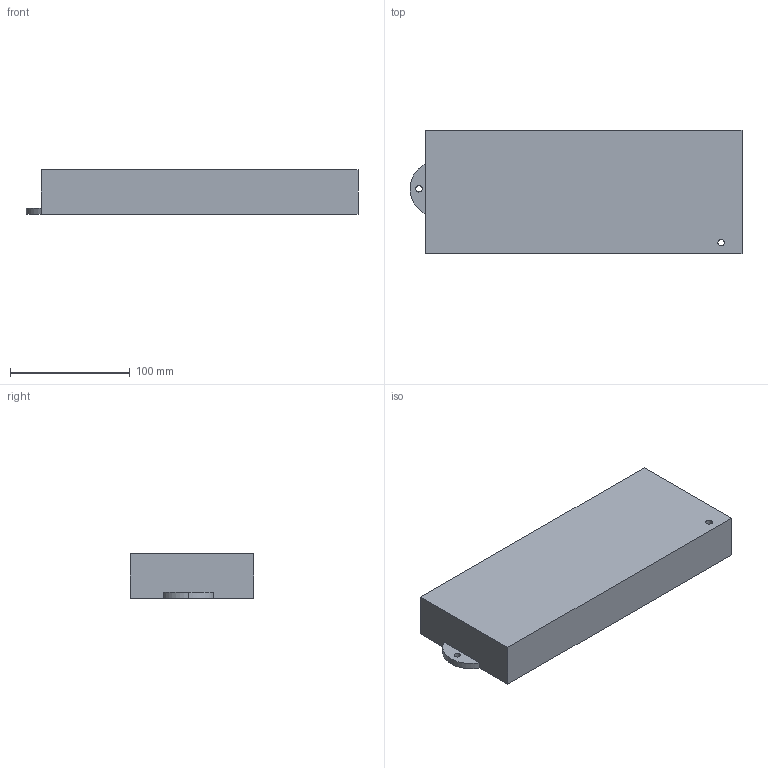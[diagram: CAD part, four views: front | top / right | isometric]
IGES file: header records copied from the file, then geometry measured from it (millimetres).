
Start section: Data from Parasolid IGES Translator 20.0.26, Copyright(c) 2006 Siemens P LM Software. All Rights Reserved.
Global section: file name: 9142061.igs; native system: By Siemens PLM Incorporated; preprocessor: XPlus GENERIC/IGES 20.0.26; author: Noname; organization: Noname; date: 20201028.170959; units: millimetre
Bounding box: 276.73 x 103 x 37.5 mm (x, y, z)
Surface area: 83353 mm2 (no closed solid volume)
Topology: 0 solids, 0 shells, 11 faces, 54 edges, 52 vertices
Faces by surface type: extrusion 7, revolution 4
